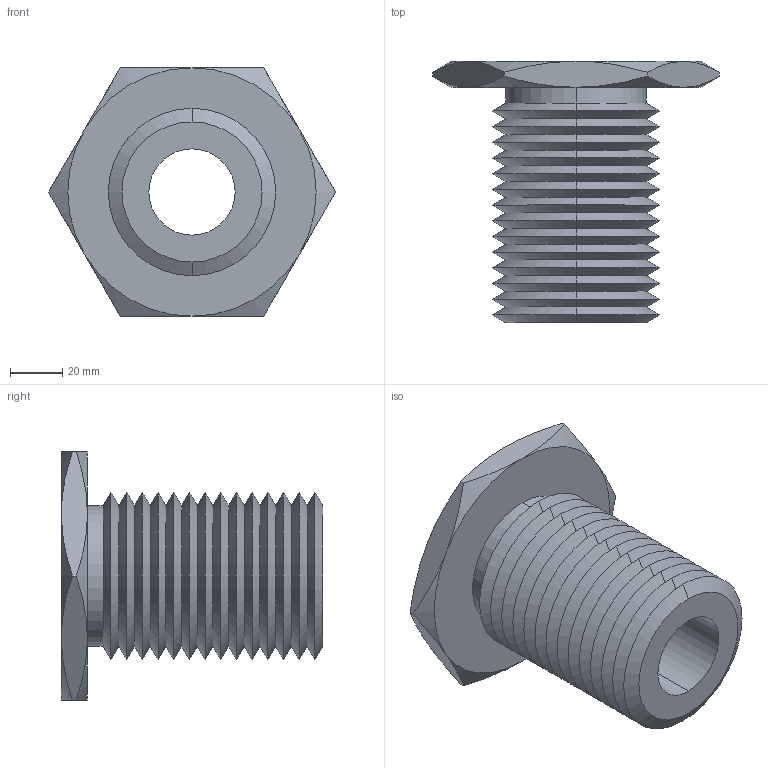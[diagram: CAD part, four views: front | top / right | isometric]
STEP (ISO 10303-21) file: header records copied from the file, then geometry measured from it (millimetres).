
FILE_DESCRIPTION (( 'STEP AP203' ), '1' );
FILE_NAME ('63302.W0064_M33x3,5.step', '2013-12-08T11:25:36', ( 'User' ), ( '' ), 'SwSTEP 2.0', 'SolidWorks 2009', '' );
FILE_SCHEMA (( 'CONFIG_CONTROL_DESIGN' ));
Length unit declared in the file: millimetre
Products named in the file (1): 63302.W0064_M33x3,5
Bounding box: 109.7 x 100 x 95 mm (x, y, z)
Volume: 232353.1 mm3; surface area: 58696.5 mm2
Topology: 1 solids, 1 shells, 83 faces, 170 edges, 90 vertices
Faces by surface type: cone 70, plane 9, cylinder 4
Entity records: 2371 total; most frequent: CARTESIAN_POINT 560, DIRECTION 392, ORIENTED_EDGE 340, EDGE_CURVE 170, AXIS2_PLACEMENT_3D 162, VERTEX_POINT 90, EDGE_LOOP 86, ADVANCED_FACE 83
